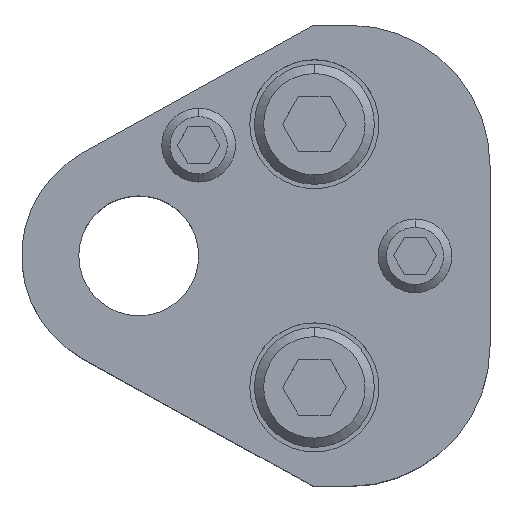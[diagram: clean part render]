
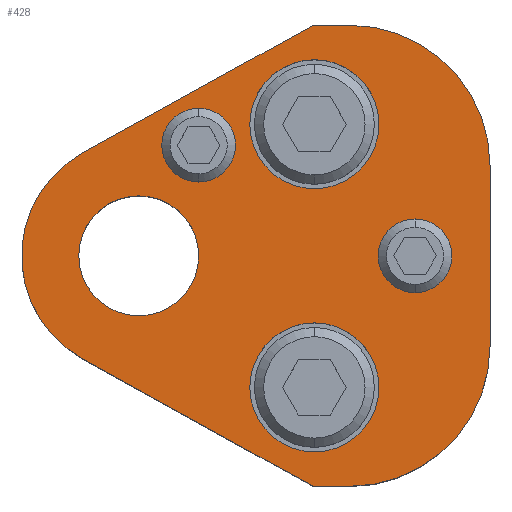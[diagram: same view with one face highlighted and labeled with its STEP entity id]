
A CAD part, top view. The second image highlights one B-rep face of the part: STEP entity #428.
In plain terms, the highlighted planar face has unit normal (0, 0, 1).
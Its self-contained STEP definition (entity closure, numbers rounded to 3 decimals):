
#198=FACE_BOUND('',#745,.T.);
#199=FACE_BOUND('',#746,.T.);
#200=FACE_BOUND('',#747,.T.);
#201=FACE_BOUND('',#748,.T.);
#202=FACE_BOUND('',#749,.T.);
#203=FACE_BOUND('',#750,.T.);
#276=CIRCLE('',#2330,15.2);
#278=CIRCLE('',#2334,15.2);
#281=CIRCLE('',#2340,12.7);
#282=CIRCLE('',#2342,4.);
#284=CIRCLE('',#2345,4.);
#286=CIRCLE('',#2348,4.);
#288=CIRCLE('',#2351,4.);
#298=CIRCLE('',#2366,7.);
#299=CIRCLE('',#2367,7.);
#300=CIRCLE('',#2368,7.);
#301=CIRCLE('',#2369,7.);
#302=CIRCLE('',#2370,6.5);
#303=CIRCLE('',#2371,6.5);
#428=ADVANCED_FACE('',(#198,#199,#200,#201,#202,#203),#522,.T.);
#522=PLANE('',#2372);
#745=EDGE_LOOP('',(#1129,#1130,#1131,#1132,#1133,#1134,#1135,#1136));
#746=EDGE_LOOP('',(#1137,#1138));
#747=EDGE_LOOP('',(#1139,#1140));
#748=EDGE_LOOP('',(#1141,#1142));
#749=EDGE_LOOP('',(#1143,#1144));
#750=EDGE_LOOP('',(#1145,#1146));
#1129=ORIENTED_EDGE('',*,*,#1724,.T.);
#1130=ORIENTED_EDGE('',*,*,#1728,.T.);
#1131=ORIENTED_EDGE('',*,*,#1731,.T.);
#1132=ORIENTED_EDGE('',*,*,#1734,.T.);
#1133=ORIENTED_EDGE('',*,*,#1737,.T.);
#1134=ORIENTED_EDGE('',*,*,#1740,.T.);
#1135=ORIENTED_EDGE('',*,*,#1743,.T.);
#1136=ORIENTED_EDGE('',*,*,#1746,.T.);
#1137=ORIENTED_EDGE('',*,*,#1771,.F.);
#1138=ORIENTED_EDGE('',*,*,#1772,.F.);
#1139=ORIENTED_EDGE('',*,*,#1773,.F.);
#1140=ORIENTED_EDGE('',*,*,#1774,.F.);
#1141=ORIENTED_EDGE('',*,*,#1757,.F.);
#1142=ORIENTED_EDGE('',*,*,#1753,.F.);
#1143=ORIENTED_EDGE('',*,*,#1751,.F.);
#1144=ORIENTED_EDGE('',*,*,#1747,.F.);
#1145=ORIENTED_EDGE('',*,*,#1775,.T.);
#1146=ORIENTED_EDGE('',*,*,#1776,.T.);
#1492=VERTEX_POINT('',#3476);
#1493=VERTEX_POINT('',#3478);
#1496=VERTEX_POINT('',#3485);
#1498=VERTEX_POINT('',#3491);
#1500=VERTEX_POINT('',#3497);
#1502=VERTEX_POINT('',#3503);
#1504=VERTEX_POINT('',#3509);
#1506=VERTEX_POINT('',#3515);
#1507=VERTEX_POINT('',#3523);
#1508=VERTEX_POINT('',#3524);
#1511=VERTEX_POINT('',#3535);
#1512=VERTEX_POINT('',#3536);
#1523=VERTEX_POINT('',#3571);
#1524=VERTEX_POINT('',#3572);
#1525=VERTEX_POINT('',#3575);
#1526=VERTEX_POINT('',#3576);
#1527=VERTEX_POINT('',#3579);
#1528=VERTEX_POINT('',#3580);
#1724=EDGE_CURVE('',#1493,#1492,#1968,.T.);
#1728=EDGE_CURVE('',#1492,#1496,#1972,.T.);
#1731=EDGE_CURVE('',#1496,#1498,#276,.T.);
#1734=EDGE_CURVE('',#1498,#1500,#1976,.T.);
#1737=EDGE_CURVE('',#1500,#1502,#278,.T.);
#1740=EDGE_CURVE('',#1502,#1504,#1980,.T.);
#1743=EDGE_CURVE('',#1504,#1506,#1983,.T.);
#1746=EDGE_CURVE('',#1506,#1493,#281,.T.);
#1747=EDGE_CURVE('',#1507,#1508,#282,.T.);
#1751=EDGE_CURVE('',#1508,#1507,#284,.T.);
#1753=EDGE_CURVE('',#1511,#1512,#286,.T.);
#1757=EDGE_CURVE('',#1512,#1511,#288,.T.);
#1771=EDGE_CURVE('',#1523,#1524,#298,.T.);
#1772=EDGE_CURVE('',#1524,#1523,#299,.T.);
#1773=EDGE_CURVE('',#1525,#1526,#300,.T.);
#1774=EDGE_CURVE('',#1526,#1525,#301,.T.);
#1775=EDGE_CURVE('',#1527,#1528,#302,.T.);
#1776=EDGE_CURVE('',#1528,#1527,#303,.T.);
#1968=LINE('',#3477,#2132);
#1972=LINE('',#3486,#2136);
#1976=LINE('',#3498,#2140);
#1980=LINE('',#3510,#2144);
#1983=LINE('',#3516,#2147);
#2132=VECTOR('',#2758,1.);
#2136=VECTOR('',#2764,1.);
#2140=VECTOR('',#2776,1.);
#2144=VECTOR('',#2788,1.);
#2147=VECTOR('',#2793,1.);
#2330=AXIS2_PLACEMENT_3D('',#3492,#2769,#2770);
#2334=AXIS2_PLACEMENT_3D('',#3504,#2781,#2782);
#2340=AXIS2_PLACEMENT_3D('',#3520,#2799,#2800);
#2342=AXIS2_PLACEMENT_3D('',#3522,#2803,#2804);
#2345=AXIS2_PLACEMENT_3D('',#3531,#2811,#2812);
#2348=AXIS2_PLACEMENT_3D('',#3534,#2817,#2818);
#2351=AXIS2_PLACEMENT_3D('',#3543,#2825,#2826);
#2366=AXIS2_PLACEMENT_3D('',#3570,#2859,#2860);
#2367=AXIS2_PLACEMENT_3D('',#3573,#2861,#2862);
#2368=AXIS2_PLACEMENT_3D('',#3574,#2863,#2864);
#2369=AXIS2_PLACEMENT_3D('',#3577,#2865,#2866);
#2370=AXIS2_PLACEMENT_3D('',#3578,#2867,#2868);
#2371=AXIS2_PLACEMENT_3D('',#3581,#2869,#2870);
#2372=AXIS2_PLACEMENT_3D('',#3582,#2871,#2872);
#2758=DIRECTION('',(0.875,-0.485,0.));
#2764=DIRECTION('',(1.,0.,0.));
#2769=DIRECTION('',(0.,0.,1.));
#2770=DIRECTION('',(-0.707,0.707,0.));
#2776=DIRECTION('',(0.,1.,0.));
#2781=DIRECTION('',(0.,0.,1.));
#2782=DIRECTION('',(-0.707,-0.707,0.));
#2788=DIRECTION('',(-1.,0.,0.));
#2793=DIRECTION('',(-0.875,-0.485,0.));
#2799=DIRECTION('',(0.,0.,1.));
#2800=DIRECTION('',(1.,0.,0.));
#2803=DIRECTION('',(0.,0.,1.));
#2804=DIRECTION('',(-1.,0.,0.));
#2811=DIRECTION('',(0.,0.,1.));
#2812=DIRECTION('',(1.,0.,0.));
#2817=DIRECTION('',(0.,0.,1.));
#2818=DIRECTION('',(-1.,0.,0.));
#2825=DIRECTION('',(0.,0.,1.));
#2826=DIRECTION('',(1.,0.,0.));
#2859=DIRECTION('',(0.,0.,1.));
#2860=DIRECTION('',(1.,0.,0.));
#2861=DIRECTION('',(0.,0.,1.));
#2862=DIRECTION('',(-1.,0.,0.));
#2863=DIRECTION('',(0.,0.,1.));
#2864=DIRECTION('',(1.,0.,0.));
#2865=DIRECTION('',(0.,0.,1.));
#2866=DIRECTION('',(-1.,0.,0.));
#2867=DIRECTION('',(0.,0.,-1.));
#2868=DIRECTION('',(-1.,0.,0.));
#2869=DIRECTION('',(0.,0.,-1.));
#2870=DIRECTION('',(1.,0.,0.));
#2871=DIRECTION('',(0.,0.,1.));
#2872=DIRECTION('',(-0.875,0.485,0.));
#3476=CARTESIAN_POINT('',(18.905,-25.,25.));
#3477=CARTESIAN_POINT('',(18.905,-25.,25.));
#3478=CARTESIAN_POINT('',(-6.157,-11.108,25.));
#3485=CARTESIAN_POINT('',(22.9,-25.,25.));
#3486=CARTESIAN_POINT('',(18.905,-25.,25.));
#3491=CARTESIAN_POINT('',(38.1,-9.8,25.));
#3492=CARTESIAN_POINT('',(22.9,-9.8,25.));
#3497=CARTESIAN_POINT('',(38.1,9.8,25.));
#3498=CARTESIAN_POINT('',(38.1,9.8,25.));
#3503=CARTESIAN_POINT('',(22.9,25.,25.));
#3504=CARTESIAN_POINT('',(22.9,9.8,25.));
#3509=CARTESIAN_POINT('',(18.905,25.,25.));
#3510=CARTESIAN_POINT('',(18.905,25.,25.));
#3515=CARTESIAN_POINT('',(-6.157,11.108,25.));
#3516=CARTESIAN_POINT('',(18.905,25.,25.));
#3520=CARTESIAN_POINT('',(0.,0.,25.));
#3522=CARTESIAN_POINT('',(6.5,12.,25.));
#3523=CARTESIAN_POINT('',(6.5,8.,25.));
#3524=CARTESIAN_POINT('',(6.5,16.,25.));
#3531=CARTESIAN_POINT('',(6.5,12.,25.));
#3534=CARTESIAN_POINT('',(29.97,0.,25.));
#3535=CARTESIAN_POINT('',(29.97,-4.,25.));
#3536=CARTESIAN_POINT('',(29.97,4.,25.));
#3543=CARTESIAN_POINT('',(29.97,0.,25.));
#3570=CARTESIAN_POINT('',(19.05,14.27,25.));
#3571=CARTESIAN_POINT('',(19.05,21.27,25.));
#3572=CARTESIAN_POINT('',(19.05,7.27,25.));
#3573=CARTESIAN_POINT('',(19.05,14.27,25.));
#3574=CARTESIAN_POINT('',(19.05,-14.27,25.));
#3575=CARTESIAN_POINT('',(19.05,-7.27,25.));
#3576=CARTESIAN_POINT('',(19.05,-21.27,25.));
#3577=CARTESIAN_POINT('',(19.05,-14.27,25.));
#3578=CARTESIAN_POINT('',(0.,0.,25.));
#3579=CARTESIAN_POINT('',(0.,6.5,25.));
#3580=CARTESIAN_POINT('',(0.,-6.5,25.));
#3581=CARTESIAN_POINT('',(0.,0.,25.));
#3582=CARTESIAN_POINT('',(-6.157,-11.108,25.));
